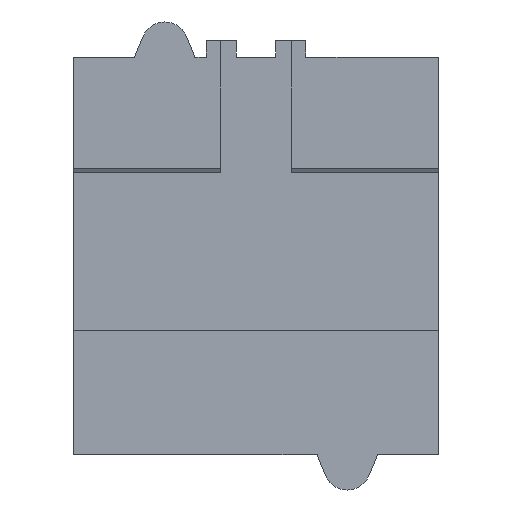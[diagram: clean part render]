
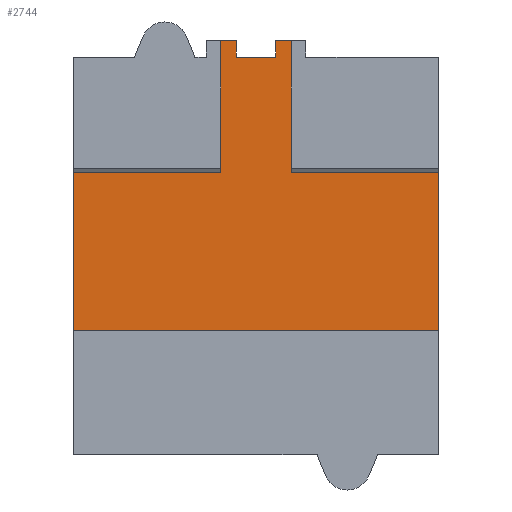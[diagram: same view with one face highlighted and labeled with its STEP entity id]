
A CAD part, front view. The second image highlights one B-rep face of the part: STEP entity #2744.
In plain terms, the highlighted planar face has unit normal (0, -1, 0).
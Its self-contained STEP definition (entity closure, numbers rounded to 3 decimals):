
#73 = LINE ( 'NONE', #958, #2656 ) ;
#74 = EDGE_CURVE ( 'NONE', #10640, #12817, #73, .T. ) ;
#196 = CARTESIAN_POINT ( 'NONE',  ( -39., 4., -17.5 ) ) ;
#360 = CARTESIAN_POINT ( 'NONE',  ( 4.25, 4., 46. ) ) ;
#382 = ORIENTED_EDGE ( 'NONE', *, *, #12041, .T. ) ;
#732 = VECTOR ( 'NONE', #7881, 1000. ) ;
#789 = AXIS2_PLACEMENT_3D ( 'NONE', #13364, #7895, #1309 ) ;
#940 = VERTEX_POINT ( 'NONE', #11137 ) ;
#958 = CARTESIAN_POINT ( 'NONE',  ( -4.25, 4., 46. ) ) ;
#973 = EDGE_CURVE ( 'NONE', #12248, #940, #3679, .T. ) ;
#1308 = DIRECTION ( 'NONE',  ( 1., 0., 0. ) ) ;
#1309 = DIRECTION ( 'NONE',  ( 0., 0., 1. ) ) ;
#1369 = CARTESIAN_POINT ( 'NONE',  ( -39., 4., 17.8 ) ) ;
#1424 = VERTEX_POINT ( 'NONE', #360 ) ;
#1473 = DIRECTION ( 'NONE',  ( 0., 0., 1. ) ) ;
#1556 = DIRECTION ( 'NONE',  ( 0., 0., -1. ) ) ;
#1592 = EDGE_CURVE ( 'NONE', #4681, #6449, #13587, .T. ) ;
#1628 = VECTOR ( 'NONE', #6191, 1000. ) ;
#1938 = LINE ( 'NONE', #6280, #10722 ) ;
#2057 = LINE ( 'NONE', #6371, #7568 ) ;
#2239 = ORIENTED_EDGE ( 'NONE', *, *, #1592, .F. ) ;
#2473 = LINE ( 'NONE', #11461, #7987 ) ;
#2656 = VECTOR ( 'NONE', #10850, 1000. ) ;
#2744 = ADVANCED_FACE ( 'NONE', ( #12185 ), #3496, .F. ) ;
#2825 = CARTESIAN_POINT ( 'NONE',  ( -39., 4., 42.5 ) ) ;
#3440 = CARTESIAN_POINT ( 'NONE',  ( 7.5, 4., 17.8 ) ) ;
#3480 = CARTESIAN_POINT ( 'NONE',  ( -7.5, 4., 46. ) ) ;
#3496 = PLANE ( 'NONE',  #789 ) ;
#3668 = LINE ( 'NONE', #3480, #732 ) ;
#3679 = LINE ( 'NONE', #13388, #12426 ) ;
#3698 = EDGE_CURVE ( 'NONE', #1424, #12006, #2057, .T. ) ;
#3731 = DIRECTION ( 'NONE',  ( 0., 0., 1. ) ) ;
#3765 = CARTESIAN_POINT ( 'NONE',  ( -39., 4., 42.5 ) ) ;
#3949 = CARTESIAN_POINT ( 'NONE',  ( -7.5, 4., 17.8 ) ) ;
#4330 = CARTESIAN_POINT ( 'NONE',  ( -39., 4., -17.5 ) ) ;
#4625 = DIRECTION ( 'NONE',  ( 1., 0., 0. ) ) ;
#4681 = VERTEX_POINT ( 'NONE', #4330 ) ;
#5008 = VERTEX_POINT ( 'NONE', #3440 ) ;
#5078 = CARTESIAN_POINT ( 'NONE',  ( -39., 4., 17.8 ) ) ;
#5322 = CARTESIAN_POINT ( 'NONE',  ( 7.5, 4., 46. ) ) ;
#5734 = DIRECTION ( 'NONE',  ( 0., 0., 1. ) ) ;
#6020 = ORIENTED_EDGE ( 'NONE', *, *, #3698, .T. ) ;
#6191 = DIRECTION ( 'NONE',  ( 1., 0., 0. ) ) ;
#6199 = ORIENTED_EDGE ( 'NONE', *, *, #10729, .F. ) ;
#6280 = CARTESIAN_POINT ( 'NONE',  ( -7.5, 4., 46. ) ) ;
#6371 = CARTESIAN_POINT ( 'NONE',  ( 4.25, 4., 42.5 ) ) ;
#6449 = VERTEX_POINT ( 'NONE', #5078 ) ;
#7275 = LINE ( 'NONE', #9175, #9514 ) ;
#7496 = LINE ( 'NONE', #2825, #1628 ) ;
#7568 = VECTOR ( 'NONE', #8583, 1000. ) ;
#7697 = VERTEX_POINT ( 'NONE', #3949 ) ;
#7881 = DIRECTION ( 'NONE',  ( -1., 0., 0. ) ) ;
#7895 = DIRECTION ( 'NONE',  ( 0., 1., 0. ) ) ;
#7987 = VECTOR ( 'NONE', #1556, 1000. ) ;
#8098 = VECTOR ( 'NONE', #3731, 1000. ) ;
#8342 = EDGE_CURVE ( 'NONE', #12817, #13426, #1938, .T. ) ;
#8343 = CARTESIAN_POINT ( 'NONE',  ( -4.25, 4., 46. ) ) ;
#8524 = ORIENTED_EDGE ( 'NONE', *, *, #8342, .T. ) ;
#8528 = ORIENTED_EDGE ( 'NONE', *, *, #14039, .T. ) ;
#8538 = EDGE_LOOP ( 'NONE', ( #11209, #10143, #9551, #382, #9612, #6020, #6199, #9525, #8524, #8528, #12477, #2239 ) ) ;
#8583 = DIRECTION ( 'NONE',  ( 0., 0., -1. ) ) ;
#8676 = EDGE_CURVE ( 'NONE', #9792, #1424, #3668, .T. ) ;
#9124 = CARTESIAN_POINT ( 'NONE',  ( 4.25, 4., 42.5 ) ) ;
#9175 = CARTESIAN_POINT ( 'NONE',  ( 7.5, 4., 17.8 ) ) ;
#9514 = VECTOR ( 'NONE', #1473, 1000. ) ;
#9524 = CARTESIAN_POINT ( 'NONE',  ( -7.5, 4., 46. ) ) ;
#9525 = ORIENTED_EDGE ( 'NONE', *, *, #74, .T. ) ;
#9551 = ORIENTED_EDGE ( 'NONE', *, *, #11972, .F. ) ;
#9612 = ORIENTED_EDGE ( 'NONE', *, *, #8676, .T. ) ;
#9792 = VERTEX_POINT ( 'NONE', #5322 ) ;
#10143 = ORIENTED_EDGE ( 'NONE', *, *, #973, .T. ) ;
#10181 = DIRECTION ( 'NONE',  ( 1., 0., 0. ) ) ;
#10557 = VECTOR ( 'NONE', #10181, 1000. ) ;
#10640 = VERTEX_POINT ( 'NONE', #11459 ) ;
#10722 = VECTOR ( 'NONE', #13930, 1000. ) ;
#10729 = EDGE_CURVE ( 'NONE', #10640, #12006, #7496, .T. ) ;
#10850 = DIRECTION ( 'NONE',  ( 0., 0., 1. ) ) ;
#11028 = EDGE_CURVE ( 'NONE', #4681, #12248, #12804, .T. ) ;
#11137 = CARTESIAN_POINT ( 'NONE',  ( 39., 4., 17.8 ) ) ;
#11209 = ORIENTED_EDGE ( 'NONE', *, *, #11028, .T. ) ;
#11459 = CARTESIAN_POINT ( 'NONE',  ( -4.25, 4., 42.5 ) ) ;
#11461 = CARTESIAN_POINT ( 'NONE',  ( -7.5, 4., 17.8 ) ) ;
#11972 = EDGE_CURVE ( 'NONE', #5008, #940, #13453, .T. ) ;
#12006 = VERTEX_POINT ( 'NONE', #9124 ) ;
#12041 = EDGE_CURVE ( 'NONE', #5008, #9792, #7275, .T. ) ;
#12185 = FACE_OUTER_BOUND ( 'NONE', #8538, .T. ) ;
#12248 = VERTEX_POINT ( 'NONE', #13052 ) ;
#12333 = CARTESIAN_POINT ( 'NONE',  ( -39., 4., 17.8 ) ) ;
#12426 = VECTOR ( 'NONE', #5734, 1000. ) ;
#12451 = VECTOR ( 'NONE', #1308, 1000. ) ;
#12477 = ORIENTED_EDGE ( 'NONE', *, *, #13748, .F. ) ;
#12804 = LINE ( 'NONE', #196, #12451 ) ;
#12817 = VERTEX_POINT ( 'NONE', #8343 ) ;
#13052 = CARTESIAN_POINT ( 'NONE',  ( 39., 4., -17.5 ) ) ;
#13118 = VECTOR ( 'NONE', #4625, 1000. ) ;
#13364 = CARTESIAN_POINT ( 'NONE',  ( -39., 4., 17.8 ) ) ;
#13388 = CARTESIAN_POINT ( 'NONE',  ( 39., 4., 17.8 ) ) ;
#13426 = VERTEX_POINT ( 'NONE', #9524 ) ;
#13453 = LINE ( 'NONE', #12333, #13118 ) ;
#13456 = LINE ( 'NONE', #1369, #10557 ) ;
#13587 = LINE ( 'NONE', #3765, #8098 ) ;
#13748 = EDGE_CURVE ( 'NONE', #6449, #7697, #13456, .T. ) ;
#13930 = DIRECTION ( 'NONE',  ( -1., 0., 0. ) ) ;
#14039 = EDGE_CURVE ( 'NONE', #13426, #7697, #2473, .T. ) ;
